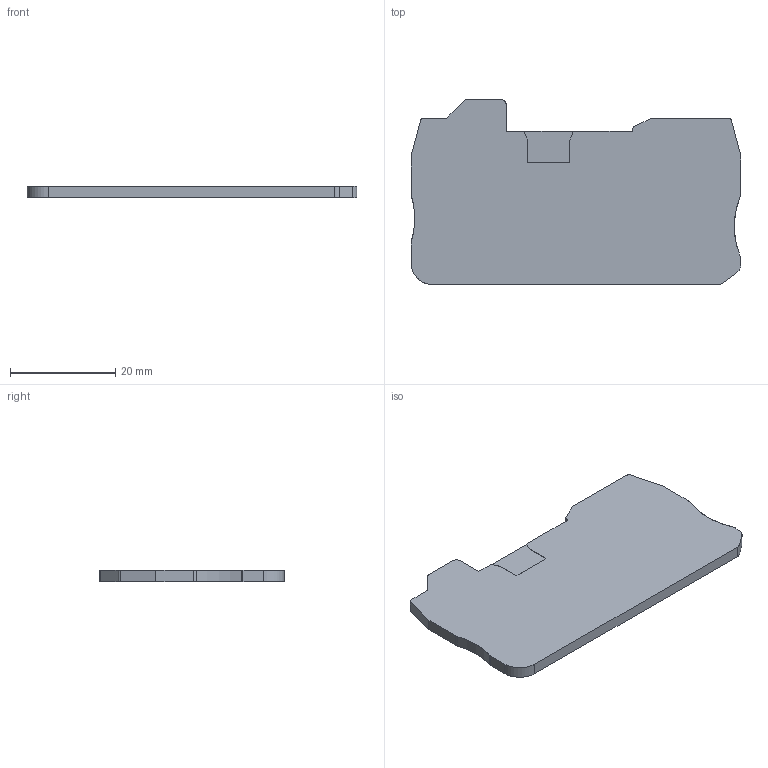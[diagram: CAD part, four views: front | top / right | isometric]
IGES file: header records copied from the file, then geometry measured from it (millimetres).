
Global section: file name: 3206597_d_qtcu25_twin-select.igs; native system: OneSpace Designer 3D IGES; preprocessor: 12.01C  26-Mar-2004; date: 20050303.135538; units: millimetre
Bounding box: 62.6 x 35.05 x 2.2 mm (x, y, z)
Surface area: 4242.4 mm2 (no closed solid volume)
Topology: 0 solids, 0 shells, 52 faces, 404 edges, 404 vertices
Faces by surface type: bspline 52
